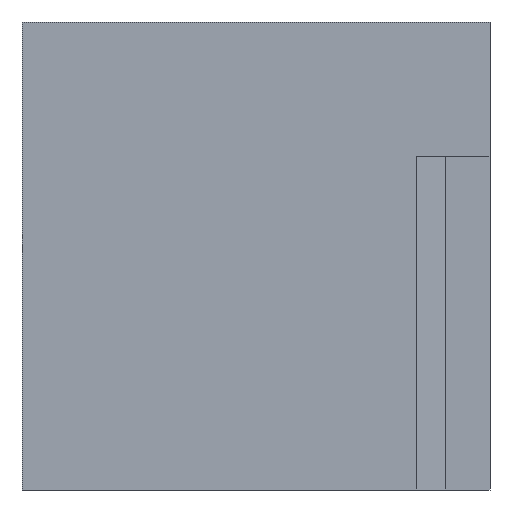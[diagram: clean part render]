
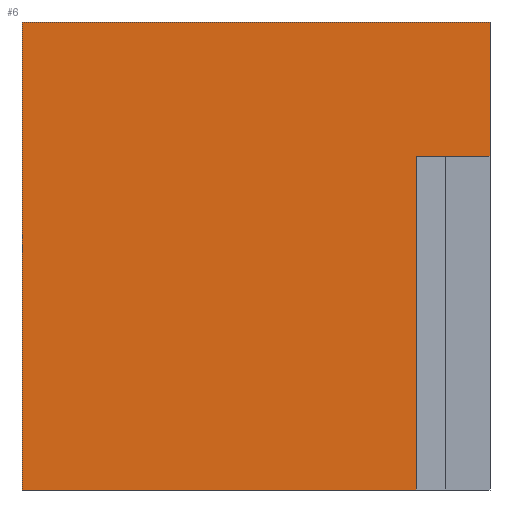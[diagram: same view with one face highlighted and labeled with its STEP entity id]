
A CAD part, left-side view. The second image highlights one B-rep face of the part: STEP entity #6.
In plain terms, the highlighted planar face has unit normal (-1, 0, 0).
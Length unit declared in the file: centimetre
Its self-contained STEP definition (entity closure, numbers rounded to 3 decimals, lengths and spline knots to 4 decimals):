
#6 = ADVANCED_FACE ( 'NONE', ( #16 ), #177, .F. ) ;
#16 = FACE_OUTER_BOUND ( 'NONE', #171, .T. ) ;
#22 = DIRECTION ( 'NONE',  ( 0., 0., -1. ) ) ;
#55 = CARTESIAN_POINT ( 'NONE',  ( 0., 0., 1000. ) ) ;
#76 = ORIENTED_EDGE ( 'NONE', *, *, #353, .T. ) ;
#101 = VECTOR ( 'NONE', #143, 100. ) ;
#128 = LINE ( 'NONE', #446, #662 ) ;
#143 = DIRECTION ( 'NONE',  ( 0., 0., -1. ) ) ;
#151 = VECTOR ( 'NONE', #448, 100. ) ;
#167 = VERTEX_POINT ( 'NONE', #392 ) ;
#171 = EDGE_LOOP ( 'NONE', ( #609, #672, #440, #669, #1009, #76 ) ) ;
#175 = VERTEX_POINT ( 'NONE', #55 ) ;
#177 = PLANE ( 'NONE',  #979 ) ;
#194 = DIRECTION ( 'NONE',  ( 0., 0., -1. ) ) ;
#198 = EDGE_CURVE ( 'NONE', #727, #204, #718, .T. ) ;
#204 = VERTEX_POINT ( 'NONE', #694 ) ;
#315 = CARTESIAN_POINT ( 'NONE',  ( 0., 1000., 1000. ) ) ;
#353 = EDGE_CURVE ( 'NONE', #167, #736, #621, .T. ) ;
#392 = CARTESIAN_POINT ( 'NONE',  ( 0., 1000., 1000. ) ) ;
#436 = VECTOR ( 'NONE', #1043, 100. ) ;
#440 = ORIENTED_EDGE ( 'NONE', *, *, #865, .F. ) ;
#441 = DIRECTION ( 'NONE',  ( 0., -1., 0. ) ) ;
#443 = CARTESIAN_POINT ( 'NONE',  ( 0., 0., 713.1318 ) ) ;
#446 = CARTESIAN_POINT ( 'NONE',  ( 0., 0., 1000. ) ) ;
#447 = CARTESIAN_POINT ( 'NONE',  ( 0., 157.3386, 713.1318 ) ) ;
#448 = DIRECTION ( 'NONE',  ( 0., 0., -1. ) ) ;
#452 = LINE ( 'NONE', #788, #436 ) ;
#525 = CARTESIAN_POINT ( 'NONE',  ( 0., 1000., 0. ) ) ;
#532 = LINE ( 'NONE', #525, #564 ) ;
#540 = CARTESIAN_POINT ( 'NONE',  ( 0., 1000., 0. ) ) ;
#550 = CARTESIAN_POINT ( 'NONE',  ( 0., 157.3386, 713.1318 ) ) ;
#564 = VECTOR ( 'NONE', #441, 100. ) ;
#578 = VECTOR ( 'NONE', #778, 100. ) ;
#609 = ORIENTED_EDGE ( 'NONE', *, *, #989, .T. ) ;
#621 = LINE ( 'NONE', #315, #151 ) ;
#662 = VECTOR ( 'NONE', #194, 100. ) ;
#669 = ORIENTED_EDGE ( 'NONE', *, *, #914, .F. ) ;
#672 = ORIENTED_EDGE ( 'NONE', *, *, #198, .F. ) ;
#694 = CARTESIAN_POINT ( 'NONE',  ( 0., 157.3386, 0. ) ) ;
#718 = LINE ( 'NONE', #550, #101 ) ;
#727 = VERTEX_POINT ( 'NONE', #447 ) ;
#736 = VERTEX_POINT ( 'NONE', #540 ) ;
#753 = DIRECTION ( 'NONE',  ( 1., 0., 0. ) ) ;
#778 = DIRECTION ( 'NONE',  ( 0., 1., 0. ) ) ;
#788 = CARTESIAN_POINT ( 'NONE',  ( 0., 1000., 1000. ) ) ;
#816 = EDGE_CURVE ( 'NONE', #167, #175, #452, .T. ) ;
#839 = CARTESIAN_POINT ( 'NONE',  ( 0., 1000., 1000. ) ) ;
#864 = LINE ( 'NONE', #443, #578 ) ;
#865 = EDGE_CURVE ( 'NONE', #896, #727, #864, .T. ) ;
#896 = VERTEX_POINT ( 'NONE', #933 ) ;
#914 = EDGE_CURVE ( 'NONE', #175, #896, #128, .T. ) ;
#933 = CARTESIAN_POINT ( 'NONE',  ( 0., 0., 713.1318 ) ) ;
#979 = AXIS2_PLACEMENT_3D ( 'NONE', #839, #753, #22 ) ;
#989 = EDGE_CURVE ( 'NONE', #736, #204, #532, .T. ) ;
#1009 = ORIENTED_EDGE ( 'NONE', *, *, #816, .F. ) ;
#1043 = DIRECTION ( 'NONE',  ( 0., -1., 0. ) ) ;
